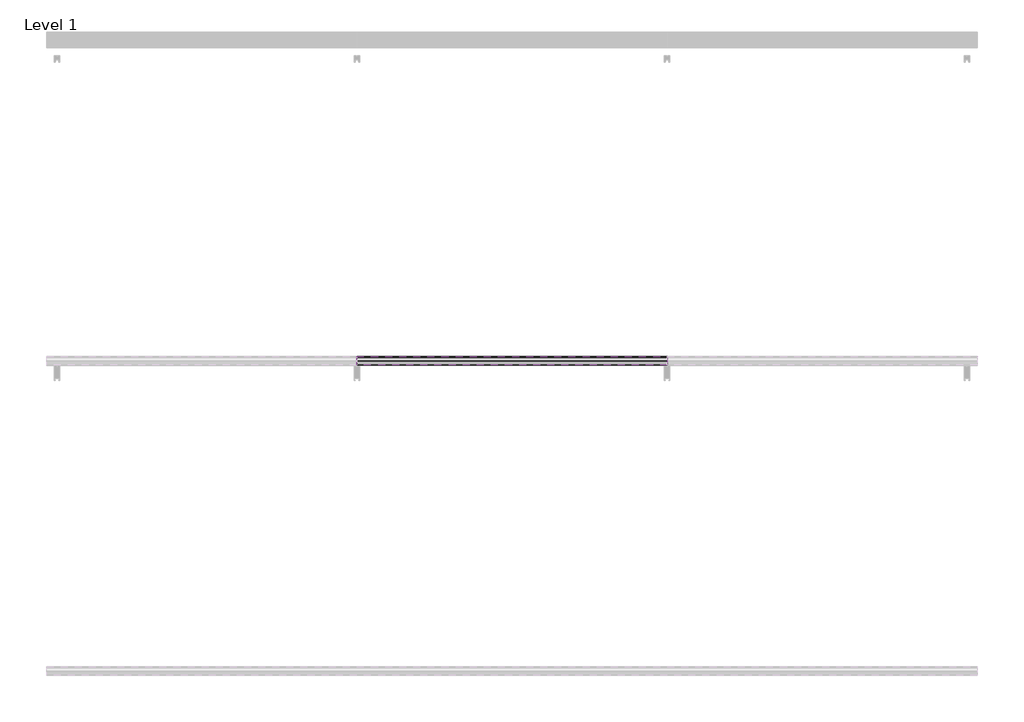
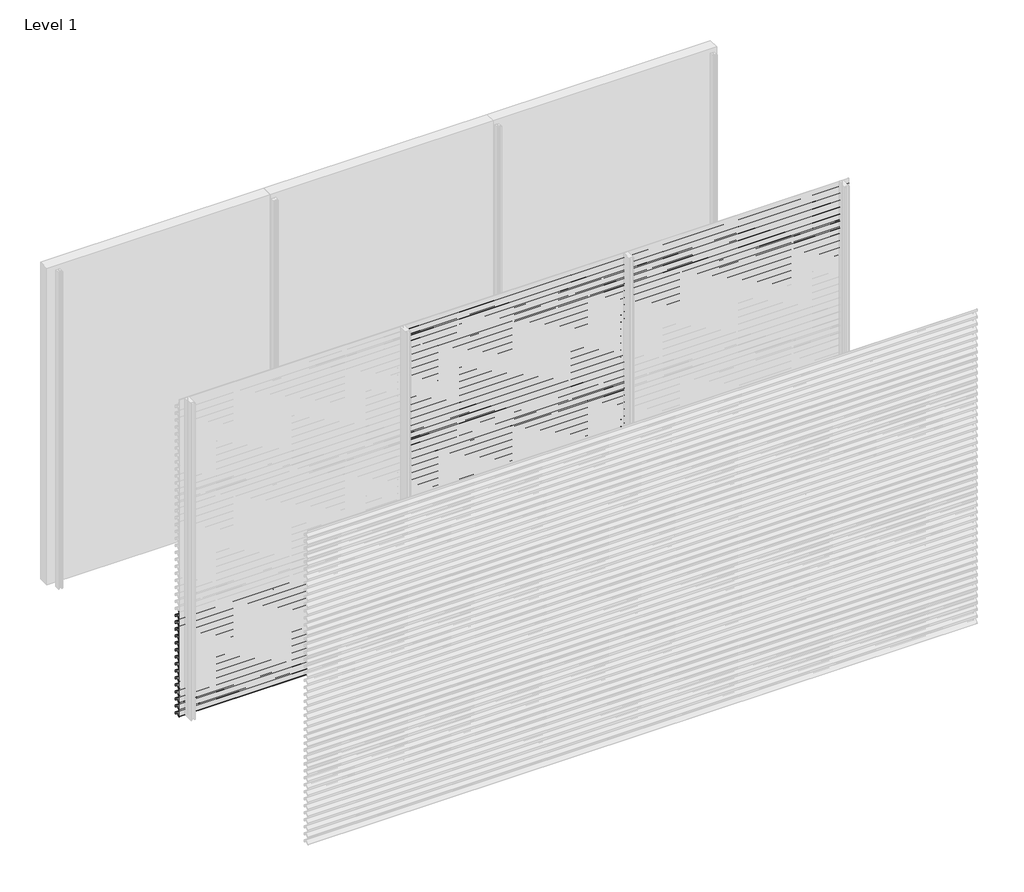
# One storey, part 19 of 27: 71 proxies.
"""IFC4 building model written with IfcOpenShell, lengths in millimetres."""

from ifc_helpers import new_model, si_unit, frame, origin, place, context, project, spatial, polyline, outline, extrude, element, save

model = new_model("IFC4")

# Units and contexts
model_context = context("Model", 3, world=origin())
ifc_project = project(units=[si_unit("LENGTHUNIT", "METRE", prefix="MILLI")], contexts=[model_context])

# Site, building, storey
site = spatial("IfcSite", under=ifc_project)
building = spatial("IfcBuilding", under=site)
storey = spatial("IfcBuildingStorey", under=building, Name="Level 1", Elevation=0.0)

# Proxies
placement = place(None, origin())
element("IfcBuildingElementProxy", 1, Name="Wall Sweeps", at=placement, inside=storey, context=model_context, shape_type="SweptSolid", body=[
    extrude(outline(polyline([(-17943.0, 933.2), (-17943.0, 913.5), (-17944.25, 914.5866084), (-17944.25, 932.4872415), (-17963.0322086, 945.6010889), (-17995.1332975, 913.5), (-17996.0525363, 914.4192388), (-17964.1148087, 946.3569665), (-17998.0, 970.0158044), (-17998.0, 990.0), (-17996.75, 990.0), (-17996.75, 970.7285629), (-17943.0, 933.2)])), frame((0.0, 0.0, 0.0), z_axis=(1.0, 0.0, 0.0), x_axis=(0.0, 1.0, 0.0)), (0.0, 0.0, 1.0), 2000.0),
])
element("IfcBuildingElementProxy", 2, Name="Wall Sweeps", at=placement, inside=storey, context=model_context, shape_type="SweptSolid", body=[
    extrude(outline(polyline([(-17943.0, 867.2), (-17943.0, 847.5), (-17944.25, 848.5866084), (-17944.25, 866.4872415), (-17963.0322086, 879.6010889), (-17995.1332975, 847.5), (-17996.0525363, 848.4192388), (-17964.1148087, 880.3569665), (-17998.0, 904.0158044), (-17998.0, 924.0), (-17996.75, 924.0), (-17996.75, 904.7285629), (-17943.0, 867.2)])), frame((0.0, 0.0, 0.0), z_axis=(1.0, 0.0, 0.0), x_axis=(0.0, 1.0, 0.0)), (0.0, 0.0, 1.0), 2000.0),
])
element("IfcBuildingElementProxy", 3, Name="Wall Sweeps", at=placement, inside=storey, context=model_context, shape_type="SweptSolid", body=[
    extrude(outline(polyline([(-17943.0, 801.2), (-17943.0, 781.5), (-17944.25, 782.5866084), (-17944.25, 800.4872415), (-17963.0322086, 813.6010889), (-17995.1332975, 781.5), (-17996.0525363, 782.4192388), (-17964.1148087, 814.3569665), (-17998.0, 838.0158044), (-17998.0, 858.0), (-17996.75, 858.0), (-17996.75, 838.7285629), (-17943.0, 801.2)])), frame((0.0, 0.0, 0.0), z_axis=(1.0, 0.0, 0.0), x_axis=(0.0, 1.0, 0.0)), (0.0, 0.0, 1.0), 2000.0),
])
element("IfcBuildingElementProxy", 4, Name="Wall Sweeps", at=placement, inside=storey, context=model_context, shape_type="SweptSolid", body=[
    extrude(outline(polyline([(-17943.0, 735.2), (-17943.0, 715.5), (-17944.25, 716.5866084), (-17944.25, 734.4872415), (-17963.0322086, 747.6010889), (-17995.1332975, 715.5), (-17996.0525363, 716.4192388), (-17964.1148087, 748.3569665), (-17998.0, 772.0158044), (-17998.0, 792.0), (-17996.75, 792.0), (-17996.75, 772.7285629), (-17943.0, 735.2)])), frame((0.0, 0.0, 0.0), z_axis=(1.0, 0.0, 0.0), x_axis=(0.0, 1.0, 0.0)), (0.0, 0.0, 1.0), 2000.0),
])
element("IfcBuildingElementProxy", 5, Name="Wall Sweeps", at=placement, inside=storey, context=model_context, shape_type="SweptSolid", body=[
    extrude(outline(polyline([(-17943.0, 669.2), (-17943.0, 649.5), (-17944.25, 650.5866084), (-17944.25, 668.4872415), (-17963.0322086, 681.6010889), (-17995.1332975, 649.5), (-17996.0525363, 650.4192388), (-17964.1148087, 682.3569665), (-17998.0, 706.0158044), (-17998.0, 726.0), (-17996.75, 726.0), (-17996.75, 706.7285629), (-17943.0, 669.2)])), frame((0.0, 0.0, 0.0), z_axis=(1.0, 0.0, 0.0), x_axis=(0.0, 1.0, 0.0)), (0.0, 0.0, 1.0), 2000.0),
])
element("IfcBuildingElementProxy", 6, Name="Wall Sweeps", at=placement, inside=storey, context=model_context, shape_type="SweptSolid", body=[
    extrude(outline(polyline([(-17943.0, 603.2), (-17943.0, 583.5), (-17944.25, 584.5866084), (-17944.25, 602.4872415), (-17963.0322086, 615.6010889), (-17995.1332975, 583.5), (-17996.0525363, 584.4192388), (-17964.1148087, 616.3569665), (-17998.0, 640.0158044), (-17998.0, 660.0), (-17996.75, 660.0), (-17996.75, 640.7285629), (-17943.0, 603.2)])), frame((0.0, 0.0, 0.0), z_axis=(1.0, 0.0, 0.0), x_axis=(0.0, 1.0, 0.0)), (0.0, 0.0, 1.0), 2000.0),
])
element("IfcBuildingElementProxy", 7, Name="Wall Sweeps", at=placement, inside=storey, context=model_context, shape_type="SweptSolid", body=[
    extrude(outline(polyline([(-17943.0, 537.2), (-17943.0, 517.5), (-17944.25, 518.5866084), (-17944.25, 536.4872415), (-17963.0322086, 549.6010889), (-17995.1332975, 517.5), (-17996.0525363, 518.4192388), (-17964.1148087, 550.3569665), (-17998.0, 574.0158044), (-17998.0, 594.0), (-17996.75, 594.0), (-17996.75, 574.7285629), (-17943.0, 537.2)])), frame((0.0, 0.0, 0.0), z_axis=(1.0, 0.0, 0.0), x_axis=(0.0, 1.0, 0.0)), (0.0, 0.0, 1.0), 2000.0),
])
element("IfcBuildingElementProxy", 8, Name="Wall Sweeps", at=placement, inside=storey, context=model_context, shape_type="SweptSolid", body=[
    extrude(outline(polyline([(-17943.0, 471.2), (-17943.0, 451.5), (-17944.25, 452.5866084), (-17944.25, 470.4872415), (-17963.0322086, 483.6010889), (-17995.1332975, 451.5), (-17996.0525363, 452.4192388), (-17964.1148087, 484.3569665), (-17998.0, 508.0158044), (-17998.0, 528.0), (-17996.75, 528.0), (-17996.75, 508.7285629), (-17943.0, 471.2)])), frame((0.0, 0.0, 0.0), z_axis=(1.0, 0.0, 0.0), x_axis=(0.0, 1.0, 0.0)), (0.0, 0.0, 1.0), 2000.0),
])
element("IfcBuildingElementProxy", 9, Name="Wall Sweeps", at=placement, inside=storey, context=model_context, shape_type="SweptSolid", body=[
    extrude(outline(polyline([(-17943.0, 405.2), (-17943.0, 385.5), (-17944.25, 386.5866084), (-17944.25, 404.4872415), (-17963.0322086, 417.6010889), (-17995.1332975, 385.5), (-17996.0525363, 386.4192388), (-17964.1148087, 418.3569665), (-17998.0, 442.0158044), (-17998.0, 462.0), (-17996.75, 462.0), (-17996.75, 442.7285629), (-17943.0, 405.2)])), frame((0.0, 0.0, 0.0), z_axis=(1.0, 0.0, 0.0), x_axis=(0.0, 1.0, 0.0)), (0.0, 0.0, 1.0), 2000.0),
])
element("IfcBuildingElementProxy", 10, Name="Wall Sweeps", at=placement, inside=storey, context=model_context, shape_type="SweptSolid", body=[
    extrude(outline(polyline([(-17943.0, 339.2), (-17943.0, 319.5), (-17944.25, 320.5866084), (-17944.25, 338.4872415), (-17963.0322086, 351.6010889), (-17995.1332975, 319.5), (-17996.0525363, 320.4192388), (-17964.1148087, 352.3569665), (-17998.0, 376.0158044), (-17998.0, 396.0), (-17996.75, 396.0), (-17996.75, 376.7285629), (-17943.0, 339.2)])), frame((0.0, 0.0, 0.0), z_axis=(1.0, 0.0, 0.0), x_axis=(0.0, 1.0, 0.0)), (0.0, 0.0, 1.0), 2000.0),
])
element("IfcBuildingElementProxy", 11, Name="Wall Sweeps", at=placement, inside=storey, context=model_context, shape_type="SweptSolid", body=[
    extrude(outline(polyline([(-17943.0, 273.2), (-17943.0, 253.5), (-17944.25, 254.5866084), (-17944.25, 272.4872415), (-17963.0322086, 285.6010889), (-17995.1332975, 253.5), (-17996.0525363, 254.4192388), (-17964.1148087, 286.3569665), (-17998.0, 310.0158044), (-17998.0, 330.0), (-17996.75, 330.0), (-17996.75, 310.7285629), (-17943.0, 273.2)])), frame((0.0, 0.0, 0.0), z_axis=(1.0, 0.0, 0.0), x_axis=(0.0, 1.0, 0.0)), (0.0, 0.0, 1.0), 2000.0),
])
element("IfcBuildingElementProxy", 12, Name="Wall Sweeps", at=placement, inside=storey, context=model_context, shape_type="SweptSolid", body=[
    extrude(outline(polyline([(-17943.0, 207.2), (-17943.0, 187.5), (-17944.25, 188.5866084), (-17944.25, 206.4872415), (-17963.0322086, 219.6010889), (-17995.1332975, 187.5), (-17996.0525363, 188.4192388), (-17964.1148087, 220.3569665), (-17998.0, 244.0158044), (-17998.0, 264.0), (-17996.75, 264.0), (-17996.75, 244.7285629), (-17943.0, 207.2)])), frame((0.0, 0.0, 0.0), z_axis=(1.0, 0.0, 0.0), x_axis=(0.0, 1.0, 0.0)), (0.0, 0.0, 1.0), 2000.0),
])
element("IfcBuildingElementProxy", 13, Name="Wall Sweeps", at=placement, inside=storey, context=model_context, shape_type="SweptSolid", body=[
    extrude(outline(polyline([(-17943.0, 141.2), (-17943.0, 121.5), (-17944.25, 122.5866084), (-17944.25, 140.4872415), (-17963.0322086, 153.6010889), (-17995.1332975, 121.5), (-17996.0525363, 122.4192388), (-17964.1148087, 154.3569665), (-17998.0, 178.0158044), (-17998.0, 198.0), (-17996.75, 198.0), (-17996.75, 178.7285629), (-17943.0, 141.2)])), frame((0.0, 0.0, 0.0), z_axis=(1.0, 0.0, 0.0), x_axis=(0.0, 1.0, 0.0)), (0.0, 0.0, 1.0), 2000.0),
])
element("IfcBuildingElementProxy", 14, Name="Wall Sweeps", at=placement, inside=storey, context=model_context, shape_type="SweptSolid", body=[
    extrude(outline(polyline([(-17943.0, 75.2), (-17943.0, 55.5), (-17944.25, 56.5866084), (-17944.25, 74.4872415), (-17963.0322086, 87.6010889), (-17995.1332975, 55.5), (-17996.0525363, 56.4192388), (-17964.1148087, 88.3569665), (-17998.0, 112.0158044), (-17998.0, 132.0), (-17996.75, 132.0), (-17996.75, 112.7285629), (-17943.0, 75.2)])), frame((0.0, 0.0, 0.0), z_axis=(1.0, 0.0, 0.0), x_axis=(0.0, 1.0, 0.0)), (0.0, 0.0, 1.0), 2000.0),
])
element("IfcBuildingElementProxy", 15, Name="Wall Sweeps", at=placement, inside=storey, context=model_context, shape_type="SweptSolid", body=[
    extrude(outline(polyline([(-17943.0, 9.2), (-17943.0, -10.5), (-17944.25, -9.4133916), (-17944.25, 8.4872415), (-17963.0322086, 21.6010889), (-17995.1332975, -10.5), (-17996.0525363, -9.5807612), (-17964.1148087, 22.3569665), (-17998.0, 46.0158044), (-17998.0, 66.0), (-17996.75, 66.0), (-17996.75, 46.7285629), (-17943.0, 9.2)])), frame((0.0, 0.0, 0.0), z_axis=(1.0, 0.0, 0.0), x_axis=(0.0, 1.0, 0.0)), (0.0, 0.0, 1.0), 2000.0),
])
element("IfcBuildingElementProxy", 16, Name="Wall Sweeps", at=placement, inside=storey, context=model_context, shape_type="SweptSolid", body=[
    extrude(outline(polyline([(-17943.0, 2913.2), (-17943.0, 2893.5), (-17944.25, 2894.5866084), (-17944.25, 2912.4872415), (-17963.0322086, 2925.6010889), (-17995.1332975, 2893.5), (-17996.0525363, 2894.4192388), (-17964.1148087, 2926.3569665), (-17998.0, 2950.0158044), (-17998.0, 2970.0), (-17996.75, 2970.0), (-17996.75, 2950.7285629), (-17943.0, 2913.2)])), frame((2000.0, 0.0, 0.0), z_axis=(1.0, 0.0, 0.0), x_axis=(0.0, 1.0, 0.0)), (0.0, 0.0, 1.0), 2000.0),
])
element("IfcBuildingElementProxy", 17, Name="Wall Sweeps", at=placement, inside=storey, context=model_context, shape_type="SweptSolid", body=[
    extrude(outline(polyline([(-17943.0, 2847.2), (-17943.0, 2827.5), (-17944.25, 2828.5866084), (-17944.25, 2846.4872415), (-17963.0322086, 2859.6010889), (-17995.1332975, 2827.5), (-17996.0525363, 2828.4192388), (-17964.1148087, 2860.3569665), (-17998.0, 2884.0158044), (-17998.0, 2904.0), (-17996.75, 2904.0), (-17996.75, 2884.7285629), (-17943.0, 2847.2)])), frame((2000.0, 0.0, 0.0), z_axis=(1.0, 0.0, 0.0), x_axis=(0.0, 1.0, 0.0)), (0.0, 0.0, 1.0), 2000.0),
])
element("IfcBuildingElementProxy", 18, Name="Wall Sweeps", at=placement, inside=storey, context=model_context, shape_type="SweptSolid", body=[
    extrude(outline(polyline([(-17943.0, 2781.2), (-17943.0, 2761.5), (-17944.25, 2762.5866084), (-17944.25, 2780.4872415), (-17963.0322086, 2793.6010889), (-17995.1332975, 2761.5), (-17996.0525363, 2762.4192388), (-17964.1148087, 2794.3569665), (-17998.0, 2818.0158044), (-17998.0, 2838.0), (-17996.75, 2838.0), (-17996.75, 2818.7285629), (-17943.0, 2781.2)])), frame((2000.0, 0.0, 0.0), z_axis=(1.0, 0.0, 0.0), x_axis=(0.0, 1.0, 0.0)), (0.0, 0.0, 1.0), 2000.0),
])
element("IfcBuildingElementProxy", 19, Name="Wall Sweeps", at=placement, inside=storey, context=model_context, shape_type="SweptSolid", body=[
    extrude(outline(polyline([(-17943.0, 2715.2), (-17943.0, 2695.5), (-17944.25, 2696.5866084), (-17944.25, 2714.4872415), (-17963.0322086, 2727.6010889), (-17995.1332975, 2695.5), (-17996.0525363, 2696.4192388), (-17964.1148087, 2728.3569665), (-17998.0, 2752.0158044), (-17998.0, 2772.0), (-17996.75, 2772.0), (-17996.75, 2752.7285629), (-17943.0, 2715.2)])), frame((2000.0, 0.0, 0.0), z_axis=(1.0, 0.0, 0.0), x_axis=(0.0, 1.0, 0.0)), (0.0, 0.0, 1.0), 2000.0),
])
element("IfcBuildingElementProxy", 20, Name="Wall Sweeps", at=placement, inside=storey, context=model_context, shape_type="SweptSolid", body=[
    extrude(outline(polyline([(-17943.0, 2649.2), (-17943.0, 2629.5), (-17944.25, 2630.5866084), (-17944.25, 2648.4872415), (-17963.0322086, 2661.6010889), (-17995.1332975, 2629.5), (-17996.0525363, 2630.4192388), (-17964.1148087, 2662.3569665), (-17998.0, 2686.0158044), (-17998.0, 2706.0), (-17996.75, 2706.0), (-17996.75, 2686.7285629), (-17943.0, 2649.2)])), frame((2000.0, 0.0, 0.0), z_axis=(1.0, 0.0, 0.0), x_axis=(0.0, 1.0, 0.0)), (0.0, 0.0, 1.0), 2000.0),
])
element("IfcBuildingElementProxy", 21, Name="Wall Sweeps", at=placement, inside=storey, context=model_context, shape_type="SweptSolid", body=[
    extrude(outline(polyline([(-17943.0, 2583.2), (-17943.0, 2563.5), (-17944.25, 2564.5866084), (-17944.25, 2582.4872415), (-17963.0322086, 2595.6010889), (-17995.1332975, 2563.5), (-17996.0525363, 2564.4192388), (-17964.1148087, 2596.3569665), (-17998.0, 2620.0158044), (-17998.0, 2640.0), (-17996.75, 2640.0), (-17996.75, 2620.7285629), (-17943.0, 2583.2)])), frame((2000.0, 0.0, 0.0), z_axis=(1.0, 0.0, 0.0), x_axis=(0.0, 1.0, 0.0)), (0.0, 0.0, 1.0), 2000.0),
])
element("IfcBuildingElementProxy", 22, Name="Wall Sweeps", at=placement, inside=storey, context=model_context, shape_type="SweptSolid", body=[
    extrude(outline(polyline([(-17943.0, 2517.2), (-17943.0, 2497.5), (-17944.25, 2498.5866084), (-17944.25, 2516.4872415), (-17963.0322086, 2529.6010889), (-17995.1332975, 2497.5), (-17996.0525363, 2498.4192388), (-17964.1148087, 2530.3569665), (-17998.0, 2554.0158044), (-17998.0, 2574.0), (-17996.75, 2574.0), (-17996.75, 2554.7285629), (-17943.0, 2517.2)])), frame((2000.0, 0.0, 0.0), z_axis=(1.0, 0.0, 0.0), x_axis=(0.0, 1.0, 0.0)), (0.0, 0.0, 1.0), 2000.0),
])
element("IfcBuildingElementProxy", 23, Name="Wall Sweeps", at=placement, inside=storey, context=model_context, shape_type="SweptSolid", body=[
    extrude(outline(polyline([(-17943.0, 2451.2), (-17943.0, 2431.5), (-17944.25, 2432.5866084), (-17944.25, 2450.4872415), (-17963.0322086, 2463.6010889), (-17995.1332975, 2431.5), (-17996.0525363, 2432.4192388), (-17964.1148087, 2464.3569665), (-17998.0, 2488.0158044), (-17998.0, 2508.0), (-17996.75, 2508.0), (-17996.75, 2488.7285629), (-17943.0, 2451.2)])), frame((2000.0, 0.0, 0.0), z_axis=(1.0, 0.0, 0.0), x_axis=(0.0, 1.0, 0.0)), (0.0, 0.0, 1.0), 2000.0),
])
element("IfcBuildingElementProxy", 24, Name="Wall Sweeps", at=placement, inside=storey, context=model_context, shape_type="SweptSolid", body=[
    extrude(outline(polyline([(-17943.0, 2385.2), (-17943.0, 2365.5), (-17944.25, 2366.5866084), (-17944.25, 2384.4872415), (-17963.0322086, 2397.6010889), (-17995.1332975, 2365.5), (-17996.0525363, 2366.4192388), (-17964.1148087, 2398.3569665), (-17998.0, 2422.0158044), (-17998.0, 2442.0), (-17996.75, 2442.0), (-17996.75, 2422.7285629), (-17943.0, 2385.2)])), frame((2000.0, 0.0, 0.0), z_axis=(1.0, 0.0, 0.0), x_axis=(0.0, 1.0, 0.0)), (0.0, 0.0, 1.0), 2000.0),
])
element("IfcBuildingElementProxy", 25, Name="Wall Sweeps", at=placement, inside=storey, context=model_context, shape_type="SweptSolid", body=[
    extrude(outline(polyline([(-17943.0, 2319.2), (-17943.0, 2299.5), (-17944.25, 2300.5866084), (-17944.25, 2318.4872415), (-17963.0322086, 2331.6010889), (-17995.1332975, 2299.5), (-17996.0525363, 2300.4192388), (-17964.1148087, 2332.3569665), (-17998.0, 2356.0158044), (-17998.0, 2376.0), (-17996.75, 2376.0), (-17996.75, 2356.7285629), (-17943.0, 2319.2)])), frame((2000.0, 0.0, 0.0), z_axis=(1.0, 0.0, 0.0), x_axis=(0.0, 1.0, 0.0)), (0.0, 0.0, 1.0), 2000.0),
])
element("IfcBuildingElementProxy", 26, Name="Wall Sweeps", at=placement, inside=storey, context=model_context, shape_type="SweptSolid", body=[
    extrude(outline(polyline([(-17943.0, 2253.2), (-17943.0, 2233.5), (-17944.25, 2234.5866084), (-17944.25, 2252.4872415), (-17963.0322086, 2265.6010889), (-17995.1332975, 2233.5), (-17996.0525363, 2234.4192388), (-17964.1148087, 2266.3569665), (-17998.0, 2290.0158044), (-17998.0, 2310.0), (-17996.75, 2310.0), (-17996.75, 2290.7285629), (-17943.0, 2253.2)])), frame((2000.0, 0.0, 0.0), z_axis=(1.0, 0.0, 0.0), x_axis=(0.0, 1.0, 0.0)), (0.0, 0.0, 1.0), 2000.0),
])
element("IfcBuildingElementProxy", 27, Name="Wall Sweeps", at=placement, inside=storey, context=model_context, shape_type="SweptSolid", body=[
    extrude(outline(polyline([(-17943.0, 2187.2), (-17943.0, 2167.5), (-17944.25, 2168.5866084), (-17944.25, 2186.4872415), (-17963.0322086, 2199.6010889), (-17995.1332975, 2167.5), (-17996.0525363, 2168.4192388), (-17964.1148087, 2200.3569665), (-17998.0, 2224.0158044), (-17998.0, 2244.0), (-17996.75, 2244.0), (-17996.75, 2224.7285629), (-17943.0, 2187.2)])), frame((2000.0, 0.0, 0.0), z_axis=(1.0, 0.0, 0.0), x_axis=(0.0, 1.0, 0.0)), (0.0, 0.0, 1.0), 2000.0),
])
element("IfcBuildingElementProxy", 28, Name="Wall Sweeps", at=placement, inside=storey, context=model_context, shape_type="SweptSolid", body=[
    extrude(outline(polyline([(-17943.0, 2121.2), (-17943.0, 2101.5), (-17944.25, 2102.5866084), (-17944.25, 2120.4872415), (-17963.0322086, 2133.6010889), (-17995.1332975, 2101.5), (-17996.0525363, 2102.4192388), (-17964.1148087, 2134.3569665), (-17998.0, 2158.0158044), (-17998.0, 2178.0), (-17996.75, 2178.0), (-17996.75, 2158.7285629), (-17943.0, 2121.2)])), frame((2000.0, 0.0, 0.0), z_axis=(1.0, 0.0, 0.0), x_axis=(0.0, 1.0, 0.0)), (0.0, 0.0, 1.0), 2000.0),
])
element("IfcBuildingElementProxy", 29, Name="Wall Sweeps", at=placement, inside=storey, context=model_context, shape_type="SweptSolid", body=[
    extrude(outline(polyline([(-17943.0, 2055.2), (-17943.0, 2035.5), (-17944.25, 2036.5866084), (-17944.25, 2054.4872415), (-17963.0322086, 2067.6010889), (-17995.1332975, 2035.5), (-17996.0525363, 2036.4192388), (-17964.1148087, 2068.3569665), (-17998.0, 2092.0158044), (-17998.0, 2112.0), (-17996.75, 2112.0), (-17996.75, 2092.7285629), (-17943.0, 2055.2)])), frame((2000.0, 0.0, 0.0), z_axis=(1.0, 0.0, 0.0), x_axis=(0.0, 1.0, 0.0)), (0.0, 0.0, 1.0), 2000.0),
])
element("IfcBuildingElementProxy", 30, Name="Wall Sweeps", at=placement, inside=storey, context=model_context, shape_type="SweptSolid", body=[
    extrude(outline(polyline([(-17943.0, 1989.2), (-17943.0, 1969.5), (-17944.25, 1970.5866084), (-17944.25, 1988.4872415), (-17963.0322086, 2001.6010889), (-17995.1332975, 1969.5), (-17996.0525363, 1970.4192388), (-17964.1148087, 2002.3569665), (-17998.0, 2026.0158044), (-17998.0, 2046.0), (-17996.75, 2046.0), (-17996.75, 2026.7285629), (-17943.0, 1989.2)])), frame((2000.0, 0.0, 0.0), z_axis=(1.0, 0.0, 0.0), x_axis=(0.0, 1.0, 0.0)), (0.0, 0.0, 1.0), 2000.0),
])
element("IfcBuildingElementProxy", 31, Name="Wall Sweeps", at=placement, inside=storey, context=model_context, shape_type="SweptSolid", body=[
    extrude(outline(polyline([(-17943.0, 1923.2), (-17943.0, 1903.5), (-17944.25, 1904.5866084), (-17944.25, 1922.4872415), (-17963.0322086, 1935.6010889), (-17995.1332975, 1903.5), (-17996.0525363, 1904.4192388), (-17964.1148087, 1936.3569665), (-17998.0, 1960.0158044), (-17998.0, 1980.0), (-17996.75, 1980.0), (-17996.75, 1960.7285629), (-17943.0, 1923.2)])), frame((2000.0, 0.0, 0.0), z_axis=(1.0, 0.0, 0.0), x_axis=(0.0, 1.0, 0.0)), (0.0, 0.0, 1.0), 2000.0),
])
element("IfcBuildingElementProxy", 32, Name="Wall Sweeps", at=placement, inside=storey, context=model_context, shape_type="SweptSolid", body=[
    extrude(outline(polyline([(-17943.0, 1857.2), (-17943.0, 1837.5), (-17944.25, 1838.5866084), (-17944.25, 1856.4872415), (-17963.0322086, 1869.6010889), (-17995.1332975, 1837.5), (-17996.0525363, 1838.4192388), (-17964.1148087, 1870.3569665), (-17998.0, 1894.0158044), (-17998.0, 1914.0), (-17996.75, 1914.0), (-17996.75, 1894.7285629), (-17943.0, 1857.2)])), frame((2000.0, 0.0, 0.0), z_axis=(1.0, 0.0, 0.0), x_axis=(0.0, 1.0, 0.0)), (0.0, 0.0, 1.0), 2000.0),
])
element("IfcBuildingElementProxy", 33, Name="Wall Sweeps", at=placement, inside=storey, context=model_context, shape_type="SweptSolid", body=[
    extrude(outline(polyline([(-17943.0, 1791.2), (-17943.0, 1771.5), (-17944.25, 1772.5866084), (-17944.25, 1790.4872415), (-17963.0322086, 1803.6010889), (-17995.1332975, 1771.5), (-17996.0525363, 1772.4192388), (-17964.1148087, 1804.3569665), (-17998.0, 1828.0158044), (-17998.0, 1848.0), (-17996.75, 1848.0), (-17996.75, 1828.7285629), (-17943.0, 1791.2)])), frame((2000.0, 0.0, 0.0), z_axis=(1.0, 0.0, 0.0), x_axis=(0.0, 1.0, 0.0)), (0.0, 0.0, 1.0), 2000.0),
])
element("IfcBuildingElementProxy", 34, Name="Wall Sweeps", at=placement, inside=storey, context=model_context, shape_type="SweptSolid", body=[
    extrude(outline(polyline([(-17943.0, 1725.2), (-17943.0, 1705.5), (-17944.25, 1706.5866084), (-17944.25, 1724.4872415), (-17963.0322086, 1737.6010889), (-17995.1332975, 1705.5), (-17996.0525363, 1706.4192388), (-17964.1148087, 1738.3569665), (-17998.0, 1762.0158044), (-17998.0, 1782.0), (-17996.75, 1782.0), (-17996.75, 1762.7285629), (-17943.0, 1725.2)])), frame((2000.0, 0.0, 0.0), z_axis=(1.0, 0.0, 0.0), x_axis=(0.0, 1.0, 0.0)), (0.0, 0.0, 1.0), 2000.0),
])
element("IfcBuildingElementProxy", 35, Name="Wall Sweeps", at=placement, inside=storey, context=model_context, shape_type="SweptSolid", body=[
    extrude(outline(polyline([(-17943.0, 1659.2), (-17943.0, 1639.5), (-17944.25, 1640.5866084), (-17944.25, 1658.4872415), (-17963.0322086, 1671.6010889), (-17995.1332975, 1639.5), (-17996.0525363, 1640.4192388), (-17964.1148087, 1672.3569665), (-17998.0, 1696.0158044), (-17998.0, 1716.0), (-17996.75, 1716.0), (-17996.75, 1696.7285629), (-17943.0, 1659.2)])), frame((2000.0, 0.0, 0.0), z_axis=(1.0, 0.0, 0.0), x_axis=(0.0, 1.0, 0.0)), (0.0, 0.0, 1.0), 2000.0),
])
element("IfcBuildingElementProxy", 36, Name="Wall Sweeps", at=placement, inside=storey, context=model_context, shape_type="SweptSolid", body=[
    extrude(outline(polyline([(-17943.0, 1593.2), (-17943.0, 1573.5), (-17944.25, 1574.5866084), (-17944.25, 1592.4872415), (-17963.0322086, 1605.6010889), (-17995.1332975, 1573.5), (-17996.0525363, 1574.4192388), (-17964.1148087, 1606.3569665), (-17998.0, 1630.0158044), (-17998.0, 1650.0), (-17996.75, 1650.0), (-17996.75, 1630.7285629), (-17943.0, 1593.2)])), frame((2000.0, 0.0, 0.0), z_axis=(1.0, 0.0, 0.0), x_axis=(0.0, 1.0, 0.0)), (0.0, 0.0, 1.0), 2000.0),
])
element("IfcBuildingElementProxy", 37, Name="Wall Sweeps", at=placement, inside=storey, context=model_context, shape_type="SweptSolid", body=[
    extrude(outline(polyline([(-17943.0, 1527.2), (-17943.0, 1507.5), (-17944.25, 1508.5866084), (-17944.25, 1526.4872415), (-17963.0322086, 1539.6010889), (-17995.1332975, 1507.5), (-17996.0525363, 1508.4192388), (-17964.1148087, 1540.3569665), (-17998.0, 1564.0158044), (-17998.0, 1584.0), (-17996.75, 1584.0), (-17996.75, 1564.7285629), (-17943.0, 1527.2)])), frame((2000.0, 0.0, 0.0), z_axis=(1.0, 0.0, 0.0), x_axis=(0.0, 1.0, 0.0)), (0.0, 0.0, 1.0), 2000.0),
])
element("IfcBuildingElementProxy", 38, Name="Wall Sweeps", at=placement, inside=storey, context=model_context, shape_type="SweptSolid", body=[
    extrude(outline(polyline([(-17943.0, 1461.2), (-17943.0, 1441.5), (-17944.25, 1442.5866084), (-17944.25, 1460.4872415), (-17963.0322086, 1473.6010889), (-17995.1332975, 1441.5), (-17996.0525363, 1442.4192388), (-17964.1148087, 1474.3569665), (-17998.0, 1498.0158044), (-17998.0, 1518.0), (-17996.75, 1518.0), (-17996.75, 1498.7285629), (-17943.0, 1461.2)])), frame((2000.0, 0.0, 0.0), z_axis=(1.0, 0.0, 0.0), x_axis=(0.0, 1.0, 0.0)), (0.0, 0.0, 1.0), 2000.0),
])
element("IfcBuildingElementProxy", 39, Name="Wall Sweeps", at=placement, inside=storey, context=model_context, shape_type="SweptSolid", body=[
    extrude(outline(polyline([(-17943.0, 1395.2), (-17943.0, 1375.5), (-17944.25, 1376.5866084), (-17944.25, 1394.4872415), (-17963.0322086, 1407.6010889), (-17995.1332975, 1375.5), (-17996.0525363, 1376.4192388), (-17964.1148087, 1408.3569665), (-17998.0, 1432.0158044), (-17998.0, 1452.0), (-17996.75, 1452.0), (-17996.75, 1432.7285629), (-17943.0, 1395.2)])), frame((2000.0, 0.0, 0.0), z_axis=(1.0, 0.0, 0.0), x_axis=(0.0, 1.0, 0.0)), (0.0, 0.0, 1.0), 2000.0),
])
element("IfcBuildingElementProxy", 40, Name="Wall Sweeps", at=placement, inside=storey, context=model_context, shape_type="SweptSolid", body=[
    extrude(outline(polyline([(-17943.0, 1329.2), (-17943.0, 1309.5), (-17944.25, 1310.5866084), (-17944.25, 1328.4872415), (-17963.0322086, 1341.6010889), (-17995.1332975, 1309.5), (-17996.0525363, 1310.4192388), (-17964.1148087, 1342.3569665), (-17998.0, 1366.0158044), (-17998.0, 1386.0), (-17996.75, 1386.0), (-17996.75, 1366.7285629), (-17943.0, 1329.2)])), frame((2000.0, 0.0, 0.0), z_axis=(1.0, 0.0, 0.0), x_axis=(0.0, 1.0, 0.0)), (0.0, 0.0, 1.0), 2000.0),
])
element("IfcBuildingElementProxy", 41, Name="Wall Sweeps", at=placement, inside=storey, context=model_context, shape_type="SweptSolid", body=[
    extrude(outline(polyline([(-17943.0, 1263.2), (-17943.0, 1243.5), (-17944.25, 1244.5866084), (-17944.25, 1262.4872415), (-17963.0322086, 1275.6010889), (-17995.1332975, 1243.5), (-17996.0525363, 1244.4192388), (-17964.1148087, 1276.3569665), (-17998.0, 1300.0158044), (-17998.0, 1320.0), (-17996.75, 1320.0), (-17996.75, 1300.7285629), (-17943.0, 1263.2)])), frame((2000.0, 0.0, 0.0), z_axis=(1.0, 0.0, 0.0), x_axis=(0.0, 1.0, 0.0)), (0.0, 0.0, 1.0), 2000.0),
])
element("IfcBuildingElementProxy", 42, Name="Wall Sweeps", at=placement, inside=storey, context=model_context, shape_type="SweptSolid", body=[
    extrude(outline(polyline([(-17943.0, 1197.2), (-17943.0, 1177.5), (-17944.25, 1178.5866084), (-17944.25, 1196.4872415), (-17963.0322086, 1209.6010889), (-17995.1332975, 1177.5), (-17996.0525363, 1178.4192388), (-17964.1148087, 1210.3569665), (-17998.0, 1234.0158044), (-17998.0, 1254.0), (-17996.75, 1254.0), (-17996.75, 1234.7285629), (-17943.0, 1197.2)])), frame((2000.0, 0.0, 0.0), z_axis=(1.0, 0.0, 0.0), x_axis=(0.0, 1.0, 0.0)), (0.0, 0.0, 1.0), 2000.0),
])
element("IfcBuildingElementProxy", 43, Name="Wall Sweeps", at=placement, inside=storey, context=model_context, shape_type="SweptSolid", body=[
    extrude(outline(polyline([(-17943.0, 1131.2), (-17943.0, 1111.5), (-17944.25, 1112.5866084), (-17944.25, 1130.4872415), (-17963.0322086, 1143.6010889), (-17995.1332975, 1111.5), (-17996.0525363, 1112.4192388), (-17964.1148087, 1144.3569665), (-17998.0, 1168.0158044), (-17998.0, 1188.0), (-17996.75, 1188.0), (-17996.75, 1168.7285629), (-17943.0, 1131.2)])), frame((2000.0, 0.0, 0.0), z_axis=(1.0, 0.0, 0.0), x_axis=(0.0, 1.0, 0.0)), (0.0, 0.0, 1.0), 2000.0),
])
element("IfcBuildingElementProxy", 44, Name="Wall Sweeps", at=placement, inside=storey, context=model_context, shape_type="SweptSolid", body=[
    extrude(outline(polyline([(-17943.0, 1065.2), (-17943.0, 1045.5), (-17944.25, 1046.5866084), (-17944.25, 1064.4872415), (-17963.0322086, 1077.6010889), (-17995.1332975, 1045.5), (-17996.0525363, 1046.4192388), (-17964.1148087, 1078.3569665), (-17998.0, 1102.0158044), (-17998.0, 1122.0), (-17996.75, 1122.0), (-17996.75, 1102.7285629), (-17943.0, 1065.2)])), frame((2000.0, 0.0, 0.0), z_axis=(1.0, 0.0, 0.0), x_axis=(0.0, 1.0, 0.0)), (0.0, 0.0, 1.0), 2000.0),
])
element("IfcBuildingElementProxy", 45, Name="Wall Sweeps", at=placement, inside=storey, context=model_context, shape_type="SweptSolid", body=[
    extrude(outline(polyline([(-17943.0, 999.2), (-17943.0, 979.5), (-17944.25, 980.5866084), (-17944.25, 998.4872415), (-17963.0322086, 1011.6010889), (-17995.1332975, 979.5), (-17996.0525363, 980.4192388), (-17964.1148087, 1012.3569665), (-17998.0, 1036.0158044), (-17998.0, 1056.0), (-17996.75, 1056.0), (-17996.75, 1036.7285629), (-17943.0, 999.2)])), frame((2000.0, 0.0, 0.0), z_axis=(1.0, 0.0, 0.0), x_axis=(0.0, 1.0, 0.0)), (0.0, 0.0, 1.0), 2000.0),
])
element("IfcBuildingElementProxy", 46, Name="Wall Sweeps", at=placement, inside=storey, context=model_context, shape_type="SweptSolid", body=[
    extrude(outline(polyline([(-17943.0, 933.2), (-17943.0, 913.5), (-17944.25, 914.5866084), (-17944.25, 932.4872415), (-17963.0322086, 945.6010889), (-17995.1332975, 913.5), (-17996.0525363, 914.4192388), (-17964.1148087, 946.3569665), (-17998.0, 970.0158044), (-17998.0, 990.0), (-17996.75, 990.0), (-17996.75, 970.7285629), (-17943.0, 933.2)])), frame((2000.0, 0.0, 0.0), z_axis=(1.0, 0.0, 0.0), x_axis=(0.0, 1.0, 0.0)), (0.0, 0.0, 1.0), 2000.0),
])
element("IfcBuildingElementProxy", 47, Name="Wall Sweeps", at=placement, inside=storey, context=model_context, shape_type="SweptSolid", body=[
    extrude(outline(polyline([(-17943.0, 867.2), (-17943.0, 847.5), (-17944.25, 848.5866084), (-17944.25, 866.4872415), (-17963.0322086, 879.6010889), (-17995.1332975, 847.5), (-17996.0525363, 848.4192388), (-17964.1148087, 880.3569665), (-17998.0, 904.0158044), (-17998.0, 924.0), (-17996.75, 924.0), (-17996.75, 904.7285629), (-17943.0, 867.2)])), frame((2000.0, 0.0, 0.0), z_axis=(1.0, 0.0, 0.0), x_axis=(0.0, 1.0, 0.0)), (0.0, 0.0, 1.0), 2000.0),
])
element("IfcBuildingElementProxy", 48, Name="Wall Sweeps", at=placement, inside=storey, context=model_context, shape_type="SweptSolid", body=[
    extrude(outline(polyline([(-17943.0, 801.2), (-17943.0, 781.5), (-17944.25, 782.5866084), (-17944.25, 800.4872415), (-17963.0322086, 813.6010889), (-17995.1332975, 781.5), (-17996.0525363, 782.4192388), (-17964.1148087, 814.3569665), (-17998.0, 838.0158044), (-17998.0, 858.0), (-17996.75, 858.0), (-17996.75, 838.7285629), (-17943.0, 801.2)])), frame((2000.0, 0.0, 0.0), z_axis=(1.0, 0.0, 0.0), x_axis=(0.0, 1.0, 0.0)), (0.0, 0.0, 1.0), 2000.0),
])
element("IfcBuildingElementProxy", 49, Name="Wall Sweeps", at=placement, inside=storey, context=model_context, shape_type="SweptSolid", body=[
    extrude(outline(polyline([(-17943.0, 735.2), (-17943.0, 715.5), (-17944.25, 716.5866084), (-17944.25, 734.4872415), (-17963.0322086, 747.6010889), (-17995.1332975, 715.5), (-17996.0525363, 716.4192388), (-17964.1148087, 748.3569665), (-17998.0, 772.0158044), (-17998.0, 792.0), (-17996.75, 792.0), (-17996.75, 772.7285629), (-17943.0, 735.2)])), frame((2000.0, 0.0, 0.0), z_axis=(1.0, 0.0, 0.0), x_axis=(0.0, 1.0, 0.0)), (0.0, 0.0, 1.0), 2000.0),
])
element("IfcBuildingElementProxy", 50, Name="Wall Sweeps", at=placement, inside=storey, context=model_context, shape_type="SweptSolid", body=[
    extrude(outline(polyline([(-17943.0, 669.2), (-17943.0, 649.5), (-17944.25, 650.5866084), (-17944.25, 668.4872415), (-17963.0322086, 681.6010889), (-17995.1332975, 649.5), (-17996.0525363, 650.4192388), (-17964.1148087, 682.3569665), (-17998.0, 706.0158044), (-17998.0, 726.0), (-17996.75, 726.0), (-17996.75, 706.7285629), (-17943.0, 669.2)])), frame((2000.0, 0.0, 0.0), z_axis=(1.0, 0.0, 0.0), x_axis=(0.0, 1.0, 0.0)), (0.0, 0.0, 1.0), 2000.0),
])
element("IfcBuildingElementProxy", 51, Name="Wall Sweeps", at=placement, inside=storey, context=model_context, shape_type="SweptSolid", body=[
    extrude(outline(polyline([(-17943.0, 603.2), (-17943.0, 583.5), (-17944.25, 584.5866084), (-17944.25, 602.4872415), (-17963.0322086, 615.6010889), (-17995.1332975, 583.5), (-17996.0525363, 584.4192388), (-17964.1148087, 616.3569665), (-17998.0, 640.0158044), (-17998.0, 660.0), (-17996.75, 660.0), (-17996.75, 640.7285629), (-17943.0, 603.2)])), frame((2000.0, 0.0, 0.0), z_axis=(1.0, 0.0, 0.0), x_axis=(0.0, 1.0, 0.0)), (0.0, 0.0, 1.0), 2000.0),
])
element("IfcBuildingElementProxy", 52, Name="Wall Sweeps", at=placement, inside=storey, context=model_context, shape_type="SweptSolid", body=[
    extrude(outline(polyline([(-17943.0, 537.2), (-17943.0, 517.5), (-17944.25, 518.5866084), (-17944.25, 536.4872415), (-17963.0322086, 549.6010889), (-17995.1332975, 517.5), (-17996.0525363, 518.4192388), (-17964.1148087, 550.3569665), (-17998.0, 574.0158044), (-17998.0, 594.0), (-17996.75, 594.0), (-17996.75, 574.7285629), (-17943.0, 537.2)])), frame((2000.0, 0.0, 0.0), z_axis=(1.0, 0.0, 0.0), x_axis=(0.0, 1.0, 0.0)), (0.0, 0.0, 1.0), 2000.0),
])
element("IfcBuildingElementProxy", 53, Name="Wall Sweeps", at=placement, inside=storey, context=model_context, shape_type="SweptSolid", body=[
    extrude(outline(polyline([(-17943.0, 471.2), (-17943.0, 451.5), (-17944.25, 452.5866084), (-17944.25, 470.4872415), (-17963.0322086, 483.6010889), (-17995.1332975, 451.5), (-17996.0525363, 452.4192388), (-17964.1148087, 484.3569665), (-17998.0, 508.0158044), (-17998.0, 528.0), (-17996.75, 528.0), (-17996.75, 508.7285629), (-17943.0, 471.2)])), frame((2000.0, 0.0, 0.0), z_axis=(1.0, 0.0, 0.0), x_axis=(0.0, 1.0, 0.0)), (0.0, 0.0, 1.0), 2000.0),
])
element("IfcBuildingElementProxy", 54, Name="Wall Sweeps", at=placement, inside=storey, context=model_context, shape_type="SweptSolid", body=[
    extrude(outline(polyline([(-17943.0, 405.2), (-17943.0, 385.5), (-17944.25, 386.5866084), (-17944.25, 404.4872415), (-17963.0322086, 417.6010889), (-17995.1332975, 385.5), (-17996.0525363, 386.4192388), (-17964.1148087, 418.3569665), (-17998.0, 442.0158044), (-17998.0, 462.0), (-17996.75, 462.0), (-17996.75, 442.7285629), (-17943.0, 405.2)])), frame((2000.0, 0.0, 0.0), z_axis=(1.0, 0.0, 0.0), x_axis=(0.0, 1.0, 0.0)), (0.0, 0.0, 1.0), 2000.0),
])
element("IfcBuildingElementProxy", 55, Name="Wall Sweeps", at=placement, inside=storey, context=model_context, shape_type="SweptSolid", body=[
    extrude(outline(polyline([(-17943.0, 339.2), (-17943.0, 319.5), (-17944.25, 320.5866084), (-17944.25, 338.4872415), (-17963.0322086, 351.6010889), (-17995.1332975, 319.5), (-17996.0525363, 320.4192388), (-17964.1148087, 352.3569665), (-17998.0, 376.0158044), (-17998.0, 396.0), (-17996.75, 396.0), (-17996.75, 376.7285629), (-17943.0, 339.2)])), frame((2000.0, 0.0, 0.0), z_axis=(1.0, 0.0, 0.0), x_axis=(0.0, 1.0, 0.0)), (0.0, 0.0, 1.0), 2000.0),
])
element("IfcBuildingElementProxy", 56, Name="Wall Sweeps", at=placement, inside=storey, context=model_context, shape_type="SweptSolid", body=[
    extrude(outline(polyline([(-17943.0, 273.2), (-17943.0, 253.5), (-17944.25, 254.5866084), (-17944.25, 272.4872415), (-17963.0322086, 285.6010889), (-17995.1332975, 253.5), (-17996.0525363, 254.4192388), (-17964.1148087, 286.3569665), (-17998.0, 310.0158044), (-17998.0, 330.0), (-17996.75, 330.0), (-17996.75, 310.7285629), (-17943.0, 273.2)])), frame((2000.0, 0.0, 0.0), z_axis=(1.0, 0.0, 0.0), x_axis=(0.0, 1.0, 0.0)), (0.0, 0.0, 1.0), 2000.0),
])
element("IfcBuildingElementProxy", 57, Name="Wall Sweeps", at=placement, inside=storey, context=model_context, shape_type="SweptSolid", body=[
    extrude(outline(polyline([(-17943.0, 207.2), (-17943.0, 187.5), (-17944.25, 188.5866084), (-17944.25, 206.4872415), (-17963.0322086, 219.6010889), (-17995.1332975, 187.5), (-17996.0525363, 188.4192388), (-17964.1148087, 220.3569665), (-17998.0, 244.0158044), (-17998.0, 264.0), (-17996.75, 264.0), (-17996.75, 244.7285629), (-17943.0, 207.2)])), frame((2000.0, 0.0, 0.0), z_axis=(1.0, 0.0, 0.0), x_axis=(0.0, 1.0, 0.0)), (0.0, 0.0, 1.0), 2000.0),
])
element("IfcBuildingElementProxy", 58, Name="Wall Sweeps", at=placement, inside=storey, context=model_context, shape_type="SweptSolid", body=[
    extrude(outline(polyline([(-17943.0, 141.2), (-17943.0, 121.5), (-17944.25, 122.5866084), (-17944.25, 140.4872415), (-17963.0322086, 153.6010889), (-17995.1332975, 121.5), (-17996.0525363, 122.4192388), (-17964.1148087, 154.3569665), (-17998.0, 178.0158044), (-17998.0, 198.0), (-17996.75, 198.0), (-17996.75, 178.7285629), (-17943.0, 141.2)])), frame((2000.0, 0.0, 0.0), z_axis=(1.0, 0.0, 0.0), x_axis=(0.0, 1.0, 0.0)), (0.0, 0.0, 1.0), 2000.0),
])
element("IfcBuildingElementProxy", 59, Name="Wall Sweeps", at=placement, inside=storey, context=model_context, shape_type="SweptSolid", body=[
    extrude(outline(polyline([(-17943.0, 75.2), (-17943.0, 55.5), (-17944.25, 56.5866084), (-17944.25, 74.4872415), (-17963.0322086, 87.6010889), (-17995.1332975, 55.5), (-17996.0525363, 56.4192388), (-17964.1148087, 88.3569665), (-17998.0, 112.0158044), (-17998.0, 132.0), (-17996.75, 132.0), (-17996.75, 112.7285629), (-17943.0, 75.2)])), frame((2000.0, 0.0, 0.0), z_axis=(1.0, 0.0, 0.0), x_axis=(0.0, 1.0, 0.0)), (0.0, 0.0, 1.0), 2000.0),
])
element("IfcBuildingElementProxy", 60, Name="Wall Sweeps", at=placement, inside=storey, context=model_context, shape_type="SweptSolid", body=[
    extrude(outline(polyline([(-17943.0, 9.2), (-17943.0, -10.5), (-17944.25, -9.4133916), (-17944.25, 8.4872415), (-17963.0322086, 21.6010889), (-17995.1332975, -10.5), (-17996.0525363, -9.5807612), (-17964.1148087, 22.3569665), (-17998.0, 46.0158044), (-17998.0, 66.0), (-17996.75, 66.0), (-17996.75, 46.7285629), (-17943.0, 9.2)])), frame((2000.0, 0.0, 0.0), z_axis=(1.0, 0.0, 0.0), x_axis=(0.0, 1.0, 0.0)), (0.0, 0.0, 1.0), 2000.0),
])
element("IfcBuildingElementProxy", 61, Name="Wall Sweeps", at=placement, inside=storey, context=model_context, shape_type="SweptSolid", body=[
    extrude(outline(polyline([(-17943.0, 2913.2), (-17943.0, 2893.5), (-17944.25, 2894.5866084), (-17944.25, 2912.4872415), (-17963.0322086, 2925.6010889), (-17995.1332975, 2893.5), (-17996.0525363, 2894.4192388), (-17964.1148087, 2926.3569665), (-17998.0, 2950.0158044), (-17998.0, 2970.0), (-17996.75, 2970.0), (-17996.75, 2950.7285629), (-17943.0, 2913.2)])), frame((4000.0, 0.0, 0.0), z_axis=(1.0, 0.0, 0.0), x_axis=(0.0, 1.0, 0.0)), (0.0, 0.0, 1.0), 2000.0),
])
element("IfcBuildingElementProxy", 62, Name="Wall Sweeps", at=placement, inside=storey, context=model_context, shape_type="SweptSolid", body=[
    extrude(outline(polyline([(-17943.0, 2847.2), (-17943.0, 2827.5), (-17944.25, 2828.5866084), (-17944.25, 2846.4872415), (-17963.0322086, 2859.6010889), (-17995.1332975, 2827.5), (-17996.0525363, 2828.4192388), (-17964.1148087, 2860.3569665), (-17998.0, 2884.0158044), (-17998.0, 2904.0), (-17996.75, 2904.0), (-17996.75, 2884.7285629), (-17943.0, 2847.2)])), frame((4000.0, 0.0, 0.0), z_axis=(1.0, 0.0, 0.0), x_axis=(0.0, 1.0, 0.0)), (0.0, 0.0, 1.0), 2000.0),
])
element("IfcBuildingElementProxy", 63, Name="Wall Sweeps", at=placement, inside=storey, context=model_context, shape_type="SweptSolid", body=[
    extrude(outline(polyline([(-17943.0, 2781.2), (-17943.0, 2761.5), (-17944.25, 2762.5866084), (-17944.25, 2780.4872415), (-17963.0322086, 2793.6010889), (-17995.1332975, 2761.5), (-17996.0525363, 2762.4192388), (-17964.1148087, 2794.3569665), (-17998.0, 2818.0158044), (-17998.0, 2838.0), (-17996.75, 2838.0), (-17996.75, 2818.7285629), (-17943.0, 2781.2)])), frame((4000.0, 0.0, 0.0), z_axis=(1.0, 0.0, 0.0), x_axis=(0.0, 1.0, 0.0)), (0.0, 0.0, 1.0), 2000.0),
])
element("IfcBuildingElementProxy", 64, Name="Wall Sweeps", at=placement, inside=storey, context=model_context, shape_type="SweptSolid", body=[
    extrude(outline(polyline([(-17943.0, 2715.2), (-17943.0, 2695.5), (-17944.25, 2696.5866084), (-17944.25, 2714.4872415), (-17963.0322086, 2727.6010889), (-17995.1332975, 2695.5), (-17996.0525363, 2696.4192388), (-17964.1148087, 2728.3569665), (-17998.0, 2752.0158044), (-17998.0, 2772.0), (-17996.75, 2772.0), (-17996.75, 2752.7285629), (-17943.0, 2715.2)])), frame((4000.0, 0.0, 0.0), z_axis=(1.0, 0.0, 0.0), x_axis=(0.0, 1.0, 0.0)), (0.0, 0.0, 1.0), 2000.0),
])
element("IfcBuildingElementProxy", 65, Name="Wall Sweeps", at=placement, inside=storey, context=model_context, shape_type="SweptSolid", body=[
    extrude(outline(polyline([(-17943.0, 2649.2), (-17943.0, 2629.5), (-17944.25, 2630.5866084), (-17944.25, 2648.4872415), (-17963.0322086, 2661.6010889), (-17995.1332975, 2629.5), (-17996.0525363, 2630.4192388), (-17964.1148087, 2662.3569665), (-17998.0, 2686.0158044), (-17998.0, 2706.0), (-17996.75, 2706.0), (-17996.75, 2686.7285629), (-17943.0, 2649.2)])), frame((4000.0, 0.0, 0.0), z_axis=(1.0, 0.0, 0.0), x_axis=(0.0, 1.0, 0.0)), (0.0, 0.0, 1.0), 2000.0),
])
element("IfcBuildingElementProxy", 66, Name="Wall Sweeps", at=placement, inside=storey, context=model_context, shape_type="SweptSolid", body=[
    extrude(outline(polyline([(-17943.0, 2583.2), (-17943.0, 2563.5), (-17944.25, 2564.5866084), (-17944.25, 2582.4872415), (-17963.0322086, 2595.6010889), (-17995.1332975, 2563.5), (-17996.0525363, 2564.4192388), (-17964.1148087, 2596.3569665), (-17998.0, 2620.0158044), (-17998.0, 2640.0), (-17996.75, 2640.0), (-17996.75, 2620.7285629), (-17943.0, 2583.2)])), frame((4000.0, 0.0, 0.0), z_axis=(1.0, 0.0, 0.0), x_axis=(0.0, 1.0, 0.0)), (0.0, 0.0, 1.0), 2000.0),
])
element("IfcBuildingElementProxy", 67, Name="Wall Sweeps", at=placement, inside=storey, context=model_context, shape_type="SweptSolid", body=[
    extrude(outline(polyline([(-17943.0, 2517.2), (-17943.0, 2497.5), (-17944.25, 2498.5866084), (-17944.25, 2516.4872415), (-17963.0322086, 2529.6010889), (-17995.1332975, 2497.5), (-17996.0525363, 2498.4192388), (-17964.1148087, 2530.3569665), (-17998.0, 2554.0158044), (-17998.0, 2574.0), (-17996.75, 2574.0), (-17996.75, 2554.7285629), (-17943.0, 2517.2)])), frame((4000.0, 0.0, 0.0), z_axis=(1.0, 0.0, 0.0), x_axis=(0.0, 1.0, 0.0)), (0.0, 0.0, 1.0), 2000.0),
])
element("IfcBuildingElementProxy", 68, Name="Wall Sweeps", at=placement, inside=storey, context=model_context, shape_type="SweptSolid", body=[
    extrude(outline(polyline([(-17943.0, 2451.2), (-17943.0, 2431.5), (-17944.25, 2432.5866084), (-17944.25, 2450.4872415), (-17963.0322086, 2463.6010889), (-17995.1332975, 2431.5), (-17996.0525363, 2432.4192388), (-17964.1148087, 2464.3569665), (-17998.0, 2488.0158044), (-17998.0, 2508.0), (-17996.75, 2508.0), (-17996.75, 2488.7285629), (-17943.0, 2451.2)])), frame((4000.0, 0.0, 0.0), z_axis=(1.0, 0.0, 0.0), x_axis=(0.0, 1.0, 0.0)), (0.0, 0.0, 1.0), 2000.0),
])
element("IfcBuildingElementProxy", 69, Name="Wall Sweeps", at=placement, inside=storey, context=model_context, shape_type="SweptSolid", body=[
    extrude(outline(polyline([(-17943.0, 2385.2), (-17943.0, 2365.5), (-17944.25, 2366.5866084), (-17944.25, 2384.4872415), (-17963.0322086, 2397.6010889), (-17995.1332975, 2365.5), (-17996.0525363, 2366.4192388), (-17964.1148087, 2398.3569665), (-17998.0, 2422.0158044), (-17998.0, 2442.0), (-17996.75, 2442.0), (-17996.75, 2422.7285629), (-17943.0, 2385.2)])), frame((4000.0, 0.0, 0.0), z_axis=(1.0, 0.0, 0.0), x_axis=(0.0, 1.0, 0.0)), (0.0, 0.0, 1.0), 2000.0),
])
element("IfcBuildingElementProxy", 70, Name="Wall Sweeps", at=placement, inside=storey, context=model_context, shape_type="SweptSolid", body=[
    extrude(outline(polyline([(-17943.0, 2319.2), (-17943.0, 2299.5), (-17944.25, 2300.5866084), (-17944.25, 2318.4872415), (-17963.0322086, 2331.6010889), (-17995.1332975, 2299.5), (-17996.0525363, 2300.4192388), (-17964.1148087, 2332.3569665), (-17998.0, 2356.0158044), (-17998.0, 2376.0), (-17996.75, 2376.0), (-17996.75, 2356.7285629), (-17943.0, 2319.2)])), frame((4000.0, 0.0, 0.0), z_axis=(1.0, 0.0, 0.0), x_axis=(0.0, 1.0, 0.0)), (0.0, 0.0, 1.0), 2000.0),
])
element("IfcBuildingElementProxy", 71, Name="Wall Sweeps", at=placement, inside=storey, context=model_context, shape_type="SweptSolid", body=[
    extrude(outline(polyline([(-17943.0, 2253.2), (-17943.0, 2233.5), (-17944.25, 2234.5866084), (-17944.25, 2252.4872415), (-17963.0322086, 2265.6010889), (-17995.1332975, 2233.5), (-17996.0525363, 2234.4192388), (-17964.1148087, 2266.3569665), (-17998.0, 2290.0158044), (-17998.0, 2310.0), (-17996.75, 2310.0), (-17996.75, 2290.7285629), (-17943.0, 2253.2)])), frame((4000.0, 0.0, 0.0), z_axis=(1.0, 0.0, 0.0), x_axis=(0.0, 1.0, 0.0)), (0.0, 0.0, 1.0), 2000.0),
])

save(model, "model.ifc")
